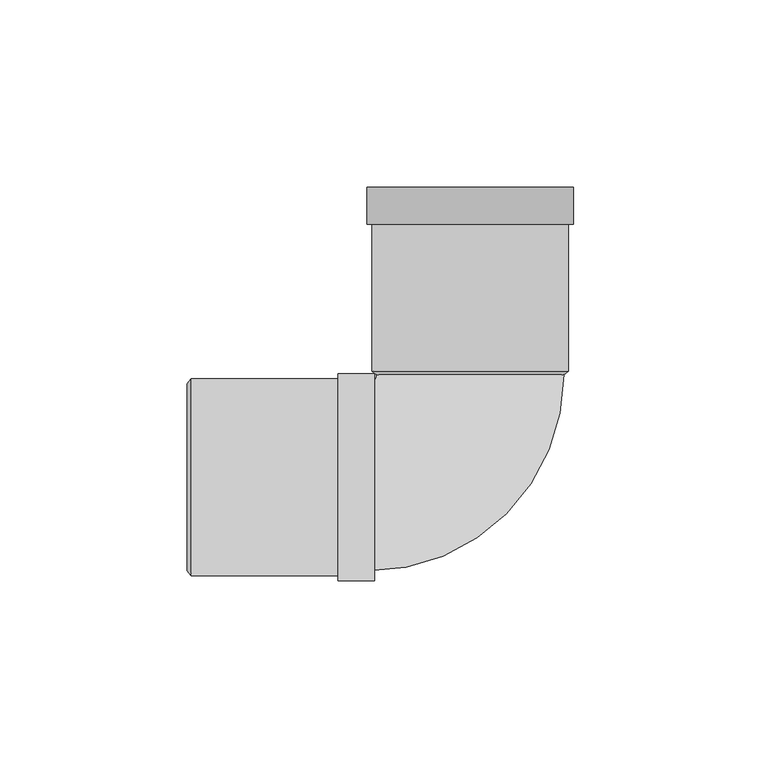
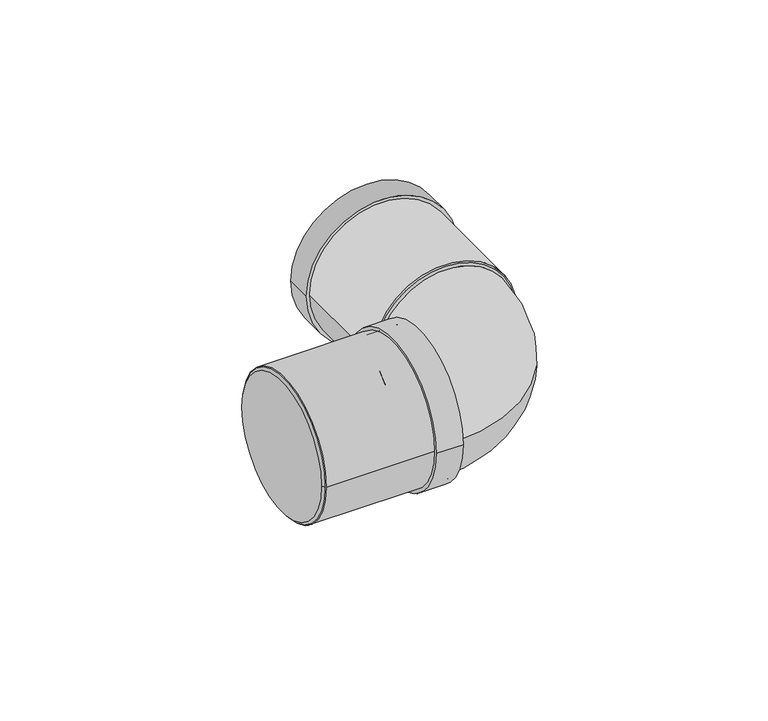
"""IFC4 building model written with IfcOpenShell, lengths in millimetres: pipe fitting geometry, Superdrain HT Bend Composite 2x45 : Superdrain HT Bend Composite 2x45."""

from ifc_helpers import new_model, si_unit, point, frame, origin, origin_2d, place, context, project, spatial, polyline, circle_curve, ellipse_curve, trimmed, segment, composite_curve, outline, extrude, source, transform, mapped, element, save
from ifc_brep_helpers import plane_surface, revolved_surface, advanced_brep


def pipe_fitting_5af3efc3(model_context):
    return source(origin(), model_context, "Body", "SolidModel", [
        extrude(outline(composite_curve([segment(trimmed(circle_curve(origin_2d(), 26.25), [point((26.25, 0.0))], [point((-26.25, 0.0))], False, "CARTESIAN"), True, "CONTINUOUS"), segment(trimmed(circle_curve(origin_2d(), 26.25), [point((-26.25, 0.0))], [point((26.25, 0.0))], False, "CARTESIAN"), True, "CONTINUOUS")], self_intersect=False), holes=[composite_curve([segment(trimmed(circle_curve(origin_2d(), 25.0), [point((25.0, 0.0))], [point((-25.0, 0.0))], True, "CARTESIAN"), True, "CONTINUOUS"), segment(trimmed(circle_curve(origin_2d(), 25.0), [point((-25.0, 0.0))], [point((25.0, 0.0))], True, "CARTESIAN"), True, "CONTINUOUS")], self_intersect=False)]), frame((-74.5, 0.0, 0.0), z_axis=(1.0, 0.0, 0.0), x_axis=(0.0, 1.0, 0.0)), (0.0, 0.0, 1.0), 49.0),
        extrude(outline(composite_curve([segment(trimmed(circle_curve(origin_2d(), 27.5625), [point((27.5625, 0.0))], [point((-27.5625, 0.0))], False, "CARTESIAN"), True, "CONTINUOUS"), segment(trimmed(circle_curve(origin_2d(), 27.5625), [point((-27.5625, 0.0))], [point((27.5625, 0.0))], False, "CARTESIAN"), True, "CONTINUOUS")], self_intersect=False), holes=[composite_curve([segment(trimmed(circle_curve(origin_2d(), 25.0), [point((25.0, 0.0))], [point((-25.0, 0.0))], True, "CARTESIAN"), True, "CONTINUOUS"), segment(trimmed(circle_curve(origin_2d(), 25.0), [point((-25.0, 0.0))], [point((25.0, 0.0))], True, "CARTESIAN"), True, "CONTINUOUS")], self_intersect=False)]), frame((-35.3, 0.0, 0.0), z_axis=(1.0, 0.0, 0.0), x_axis=(0.0, 1.0, 0.0)), (0.0, 0.0, 1.0), 9.8),
        advanced_brep(
        [(-75.5, 25.0, 0.0), (-75.5, -25.0, 0.0), (-74.5, 26.25, 0.0), (-74.5, -26.25, 0.0)],
        [
            (0, 1, circle_curve(frame((-75.5, 0.0, 0.0), z_axis=(-1.0, 0.0, 0.0), x_axis=(0.0, 1.0, 0.0)), 25.0)),
            (1, 0, circle_curve(frame((-75.5, 0.0, 0.0), z_axis=(-1.0, 0.0, 0.0), x_axis=(0.0, -1.0, 0.0)), 25.0)),
            (2, 3, circle_curve(frame((-74.5, 0.0, 0.0), z_axis=(1.0, 0.0, 0.0), x_axis=(0.0, -1.0, 0.0)), 26.25)),
            (3, 2, circle_curve(frame((-74.5, 0.0, 0.0), z_axis=(1.0, 0.0, 0.0), x_axis=(0.0, 1.0, 0.0)), 26.25)),
            (3, 1),
            (0, 2),
        ],
        [
            plane_surface(frame((-75.5, 0.0, 0.0), z_axis=(-1.0, 0.0, 0.0), x_axis=(0.0, 0.0, -1.0))),
            plane_surface(frame((-74.5, 0.0, 0.0), z_axis=(1.0, 0.0, 0.0), x_axis=(0.0, 0.0, -1.0))),
            revolved_surface(polyline([(-75.5, 25.0, 0.0), (-74.5, 26.25, 0.0)]), (-95.5, 0.0, 0.0), (1.0, 0.0, 0.0)),
            revolved_surface(polyline([(-75.5, -25.0, 0.0), (-74.5, -26.25, 0.0)]), (-95.5, 0.0, 0.0), (1.0, 0.0, 0.0)),
        ],
        [
            (0, [[1, 2]]),
            (1, [[3, 4]]),
            (2, [[-4, 5, -1, 6]]),
            (3, [[-3, -6, -2, -5]]),
        ],
    ),
        advanced_brep(
        [(25.0, 27.3, 0.0), (-25.0, 27.3, 0.0), (-27.3, -25.0, 0.0), (-27.3, 25.0, 0.0)],
        [
            (0, 1, circle_curve(frame((0.0, 27.3, 0.0), z_axis=(0.0, 1.0, 0.0), x_axis=(-1.0, 0.0, 0.0)), 25.0)),
            (1, 0, circle_curve(frame((0.0, 27.3, 0.0), z_axis=(0.0, 1.0, 0.0), x_axis=(-1.0, 0.0, 0.0)), 25.0)),
            (2, 3, circle_curve(frame((-27.3, 0.0, 0.0), z_axis=(-1.0, 0.0, 0.0), x_axis=(0.0, 1.0, 0.0)), 25.0)),
            (3, 2, circle_curve(frame((-27.3, 0.0, 0.0), z_axis=(-1.0, 0.0, 0.0), x_axis=(0.0, 1.0, 0.0)), 25.0)),
            (3, 1, circle_curve(frame((-27.3, 27.3, 0.0), z_axis=(0.0, 0.0, 1.0), x_axis=(1.0, 0.0, 0.0)), 2.3)),
            (0, 2, circle_curve(frame((-27.3, 27.3, 0.0), z_axis=(0.0, 0.0, -1.0), x_axis=(1.0, 0.0, 0.0)), 52.3)),
        ],
        [
            plane_surface(frame((0.0, 27.3, 0.0), z_axis=(0.0, 1.0, 0.0), x_axis=(0.0, 0.0, -1.0))),
            plane_surface(frame((-27.3, 0.0, 0.0), z_axis=(-1.0, 0.0, 0.0), x_axis=(0.0, 0.0, -1.0))),
            revolved_surface(trimmed(ellipse_curve(frame((0.0, 27.3, 0.0), z_axis=(0.0, -1.0, 0.0), x_axis=(-1.0, 0.0, 0.0)), 25.0, 25.0), [point((-25.0, 27.3, 0.0))], [point((25.0, 27.3, 0.0))], True, "CARTESIAN"), (-27.3, 27.3, 0.0), (0.0, 0.0, 1.0)),
            revolved_surface(trimmed(ellipse_curve(frame((0.0, 27.3, 0.0), z_axis=(0.0, -1.0, 0.0), x_axis=(-1.0, 0.0, 0.0)), 25.0, 25.0), [point((25.0, 27.3, 0.0))], [point((-25.0, 27.3, 0.0))], True, "CARTESIAN"), (-27.3, 27.3, 0.0), (0.0, 0.0, 1.0)),
        ],
        [
            (0, [[1, 2]]),
            (1, [[3, 4]]),
            (2, [[-4, 5, -1, 6]]),
            (3, [[-3, -6, -2, -5]]),
        ],
    ),
        extrude(outline(composite_curve([segment(trimmed(circle_curve(origin_2d(), 26.25), [point((0.0, 26.25))], [point((0.0, -26.25))], False, "CARTESIAN"), True, "CONTINUOUS"), segment(trimmed(circle_curve(origin_2d(), 26.25), [point((0.0, -26.25))], [point((0.0, 26.25))], False, "CARTESIAN"), True, "CONTINUOUS")], self_intersect=False), holes=[composite_curve([segment(trimmed(circle_curve(origin_2d(), 25.0), [point((0.0, 25.0))], [point((0.0, -25.0))], True, "CARTESIAN"), True, "CONTINUOUS"), segment(trimmed(circle_curve(origin_2d(), 25.0), [point((0.0, -25.0))], [point((0.0, 25.0))], True, "CARTESIAN"), True, "CONTINUOUS")], self_intersect=False)]), frame((0.0, 28.3, 0.0), z_axis=(0.0, 1.0, 0.0), x_axis=(0.0, 0.0, 1.0)), (0.0, 0.0, 1.0), 49.0),
        extrude(outline(composite_curve([segment(trimmed(circle_curve(origin_2d(), 27.5625), [point((0.0, -27.5625))], [point((0.0, 27.5625))], False, "CARTESIAN"), True, "CONTINUOUS"), segment(trimmed(circle_curve(origin_2d(), 27.5625), [point((0.0, 27.5625))], [point((0.0, -27.5625))], False, "CARTESIAN"), True, "CONTINUOUS")], self_intersect=False), holes=[composite_curve([segment(trimmed(circle_curve(origin_2d(), 25.0), [point((0.0, -25.0))], [point((0.0, 25.0))], True, "CARTESIAN"), True, "CONTINUOUS"), segment(trimmed(circle_curve(origin_2d(), 25.0), [point((0.0, 25.0))], [point((0.0, -25.0))], True, "CARTESIAN"), True, "CONTINUOUS")], self_intersect=False)]), frame((0.0, 67.5, 0.0), z_axis=(0.0, 1.0, 0.0), x_axis=(0.0, 0.0, 1.0)), (0.0, 0.0, 1.0), 9.8),
        advanced_brep(
        [(26.25, 28.3, 0.0), (-26.25, 28.3, 0.0), (25.0, 27.3, 0.0), (-25.0, 27.3, 0.0)],
        [
            (0, 1, circle_curve(frame((0.0, 28.3, 0.0), z_axis=(0.0, 1.0, 0.0), x_axis=(1.0, 0.0, 0.0)), 26.25)),
            (1, 0, circle_curve(frame((0.0, 28.3, 0.0), z_axis=(0.0, 1.0, 0.0), x_axis=(-1.0, 0.0, 0.0)), 26.25)),
            (2, 3, circle_curve(frame((0.0, 27.3, 0.0), z_axis=(0.0, -1.0, 0.0), x_axis=(-1.0, 0.0, 0.0)), 25.0)),
            (3, 2, circle_curve(frame((0.0, 27.3, 0.0), z_axis=(0.0, -1.0, 0.0), x_axis=(1.0, 0.0, 0.0)), 25.0)),
            (3, 1),
            (0, 2),
        ],
        [
            plane_surface(frame((0.0, 28.3, 0.0), z_axis=(0.0, 1.0, 0.0), x_axis=(0.0, 0.0, -1.0))),
            plane_surface(frame((0.0, 27.3, 0.0), z_axis=(0.0, -1.0, 0.0), x_axis=(0.0, 0.0, -1.0))),
            revolved_surface(polyline([(-25.0, 27.3, 0.0), (-26.25, 28.3, 0.0)]), (0.0, 7.3, 0.0), (0.0, 1.0, 0.0)),
            revolved_surface(polyline([(25.0, 27.3, 0.0), (26.25, 28.3, 0.0)]), (0.0, 7.3, 0.0), (0.0, 1.0, 0.0)),
        ],
        [
            (0, [[1, 2]]),
            (1, [[3, 4]]),
            (2, [[-4, 5, -1, 6]]),
            (3, [[-3, -6, -2, -5]]),
        ],
    ),
        extrude(outline(composite_curve([segment(trimmed(circle_curve(origin_2d(), 25.0), [point((-25.0, 0.0))], [point((25.0, 0.0))], False, "CARTESIAN"), True, "CONTINUOUS"), segment(trimmed(circle_curve(origin_2d(), 25.0), [point((25.0, 0.0))], [point((-25.0, 0.0))], False, "CARTESIAN"), True, "CONTINUOUS")], self_intersect=False)), frame((-74.5, 0.0, 0.0), z_axis=(1.0, 0.0, 0.0), x_axis=(0.0, 1.0, 0.0)), (0.0, 0.0, 1.0), 47.2),
    ])


if __name__ == "__main__":
    model = new_model("IFC4")
    model_context = context("Model", 3, world=origin())
    ifc_project = project(units=[si_unit("LENGTHUNIT", "METRE", prefix="MILLI")], contexts=[model_context])
    site = spatial("IfcSite", under=ifc_project)
    building = spatial("IfcBuilding", under=site)
    placement = place(None, origin())
    pipe_fitting_shape = pipe_fitting_5af3efc3(model_context)
    element("IfcPipeFitting", 1, ObjectType="Superdrain HT Bend Composite 2x45 : Superdrain HT Bend Composite 2x45", at=placement, inside=building, context=model_context, shape_type="MappedRepresentation", body=[
        mapped(pipe_fitting_shape, transform((0.0, 0.0, 0.0), x_axis=(1.0, 0.0, 0.0), y_axis=(0.0, 1.0, 0.0), z_axis=(0.0, 0.0, 1.0))),
    ])
    save(model, "model.ifc")
